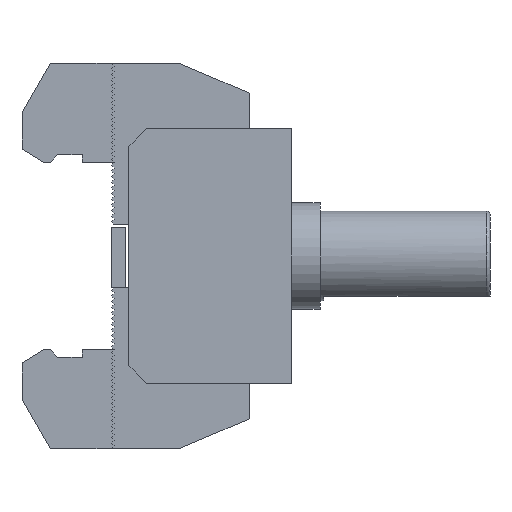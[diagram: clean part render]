
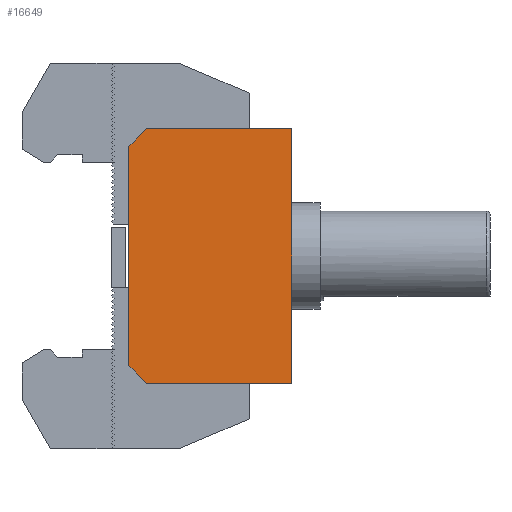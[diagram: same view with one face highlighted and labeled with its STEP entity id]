
A CAD part, front view. The second image highlights one B-rep face of the part: STEP entity #16649.
In plain terms, the highlighted planar face has unit normal (0, -1, 0).
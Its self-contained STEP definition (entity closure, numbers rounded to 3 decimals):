
#149 = ORIENTED_EDGE ( 'NONE', *, *, #1723, .F. ) ;
#321 = VECTOR ( 'NONE', #8999, 1000. ) ;
#630 = CARTESIAN_POINT ( 'NONE',  ( -59.444, -2.139, 58.167 ) ) ;
#1158 = CARTESIAN_POINT ( 'NONE',  ( -100.444, -2.139, 58.167 ) ) ;
#1723 = EDGE_CURVE ( 'NONE', #10110, #8667, #14864, .T. ) ;
#2360 = ORIENTED_EDGE ( 'NONE', *, *, #3324, .T. ) ;
#3311 = DIRECTION ( 'NONE',  ( 0., 0., 1. ) ) ;
#3324 = EDGE_CURVE ( 'NONE', #10110, #14517, #11051, .T. ) ;
#3658 = CARTESIAN_POINT ( 'NONE',  ( -100.444, -2.139, -13.833 ) ) ;
#4008 = VECTOR ( 'NONE', #17326, 1000. ) ;
#4903 = VECTOR ( 'NONE', #7795, 1000. ) ;
#4954 = AXIS2_PLACEMENT_3D ( 'NONE', #6603, #21285, #3311 ) ;
#5262 = DIRECTION ( 'NONE',  ( -0.707, 0., -0.707 ) ) ;
#5310 = ORIENTED_EDGE ( 'NONE', *, *, #9630, .T. ) ;
#5450 = CARTESIAN_POINT ( 'NONE',  ( 10.556, -2.139, -13.833 ) ) ;
#6537 = VECTOR ( 'NONE', #17312, 1000. ) ;
#6603 = CARTESIAN_POINT ( 'NONE',  ( 10.556, -2.139, 58.167 ) ) ;
#6732 = ORIENTED_EDGE ( 'NONE', *, *, #16410, .T. ) ;
#7268 = LINE ( 'NONE', #10554, #9222 ) ;
#7795 = DIRECTION ( 'NONE',  ( -1., 0., 0. ) ) ;
#8667 = VERTEX_POINT ( 'NONE', #10178 ) ;
#8999 = DIRECTION ( 'NONE',  ( 0., 0., -1. ) ) ;
#9222 = VECTOR ( 'NONE', #5262, 1000. ) ;
#9630 = EDGE_CURVE ( 'NONE', #19551, #20408, #10396, .T. ) ;
#10110 = VERTEX_POINT ( 'NONE', #630 ) ;
#10178 = CARTESIAN_POINT ( 'NONE',  ( -59.444, -2.139, -13.833 ) ) ;
#10396 = LINE ( 'NONE', #22870, #6537 ) ;
#10554 = CARTESIAN_POINT ( 'NONE',  ( -100.444, -2.139, 58.167 ) ) ;
#10634 = EDGE_CURVE ( 'NONE', #8667, #20408, #22764, .T. ) ;
#11051 = LINE ( 'NONE', #16363, #4903 ) ;
#12332 = ORIENTED_EDGE ( 'NONE', *, *, #19660, .T. ) ;
#13107 = CARTESIAN_POINT ( 'NONE',  ( -59.444, -2.139, 58.167 ) ) ;
#14147 = LINE ( 'NONE', #17553, #16595 ) ;
#14517 = VERTEX_POINT ( 'NONE', #1158 ) ;
#14864 = LINE ( 'NONE', #13107, #321 ) ;
#16363 = CARTESIAN_POINT ( 'NONE',  ( 10.556, -2.139, 58.167 ) ) ;
#16410 = EDGE_CURVE ( 'NONE', #20241, #19551, #14147, .T. ) ;
#16595 = VECTOR ( 'NONE', #19427, 1000. ) ;
#16649 = ADVANCED_FACE ( 'Defeatured_5_2', ( #20817 ), #19156, .F. ) ;
#17312 = DIRECTION ( 'NONE',  ( 0.707, 0., -0.707 ) ) ;
#17326 = DIRECTION ( 'NONE',  ( -1., 0., 0. ) ) ;
#17553 = CARTESIAN_POINT ( 'NONE',  ( -105.444, -2.139, 58.167 ) ) ;
#17747 = CARTESIAN_POINT ( 'NONE',  ( -105.444, -2.139, 53.167 ) ) ;
#18676 = CARTESIAN_POINT ( 'NONE',  ( -105.444, -2.139, -8.833 ) ) ;
#19156 = PLANE ( 'NONE',  #4954 ) ;
#19427 = DIRECTION ( 'NONE',  ( 0., 0., -1. ) ) ;
#19551 = VERTEX_POINT ( 'NONE', #18676 ) ;
#19638 = EDGE_LOOP ( 'NONE', ( #149, #2360, #12332, #6732, #5310, #19805 ) ) ;
#19660 = EDGE_CURVE ( 'NONE', #14517, #20241, #7268, .T. ) ;
#19805 = ORIENTED_EDGE ( 'NONE', *, *, #10634, .F. ) ;
#20241 = VERTEX_POINT ( 'NONE', #17747 ) ;
#20408 = VERTEX_POINT ( 'NONE', #3658 ) ;
#20817 = FACE_OUTER_BOUND ( 'NONE', #19638, .T. ) ;
#21285 = DIRECTION ( 'NONE',  ( 0., 1., 0. ) ) ;
#22764 = LINE ( 'NONE', #5450, #4008 ) ;
#22870 = CARTESIAN_POINT ( 'NONE',  ( -100.444, -2.139, -13.833 ) ) ;
